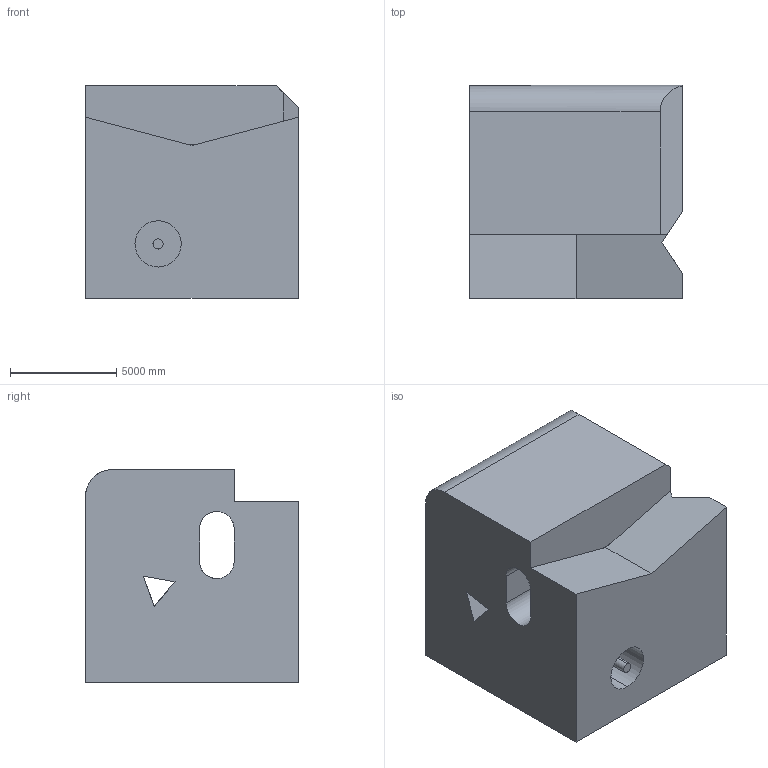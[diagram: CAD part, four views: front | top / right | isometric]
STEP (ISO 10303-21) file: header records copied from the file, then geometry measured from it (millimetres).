
FILE_DESCRIPTION (( 'STEP AP203' ), '1' );
FILE_NAME ('1861.STEP', '2022-08-19T13:38:53', ( 'user' ), ( '' ), 'SwSTEP 2.0', 'SolidWorks 2021', '' );
FILE_SCHEMA (( 'CONFIG_CONTROL_DESIGN' ));
Length unit declared in the file: centimetre
Products named in the file (1): 1861
Bounding box: 10000 x 10000 x 10000 mm (x, y, z)
Volume: 818032215435.4 mm3; surface area: 797935521 mm2
Topology: 1 solids, 1 shells, 39 faces, 108 edges, 72 vertices
Faces by surface type: plane 27, cylinder 12
Entity records: 1334 total; most frequent: CARTESIAN_POINT 244, ORIENTED_EDGE 216, DIRECTION 203, EDGE_CURVE 108, VECTOR 77, LINE 77, VERTEX_POINT 72, AXIS2_PLACEMENT_3D 63
